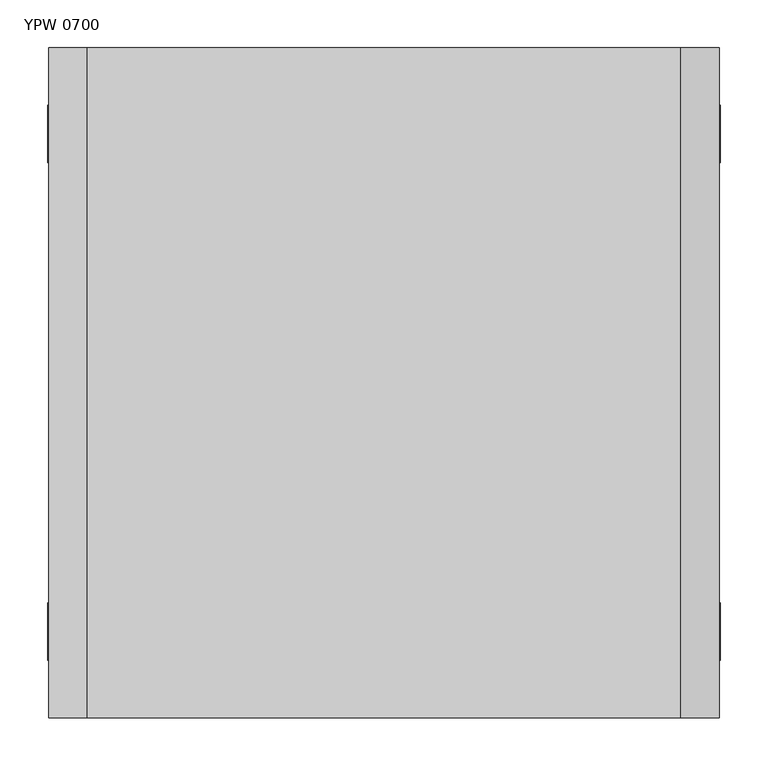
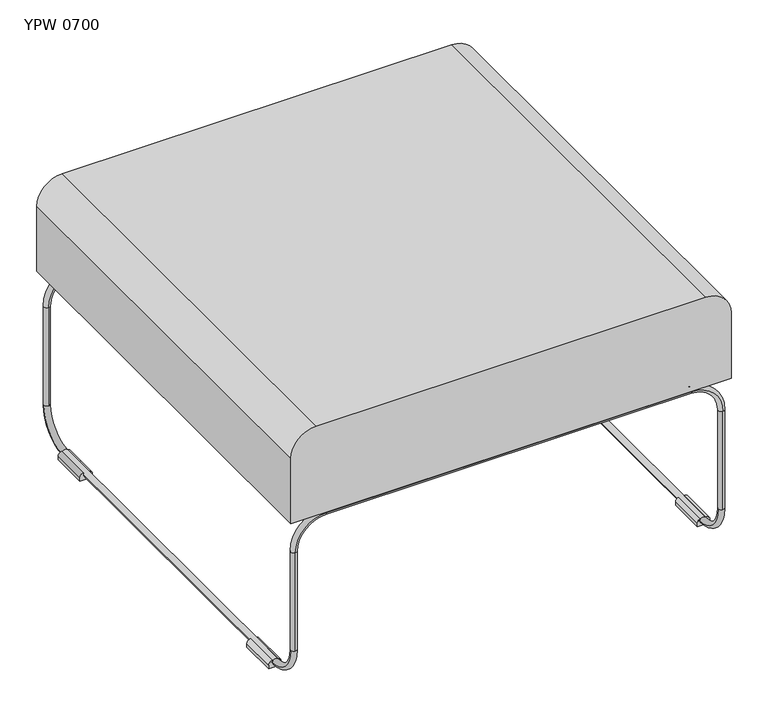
"""IFC4 building model written with IfcOpenShell, lengths in millimetres: furniture geometry, Mobiliário_Mobiliário de Escritório_LinhaYoung_Puff YPW 0700_Marelli : YPW 0700."""

from ifc_helpers import new_model, si_unit, point, frame, frame_2d, origin, place, context, project, spatial, polyline, circle_curve, ellipse_curve, trimmed, segment, composite_curve, outline, extrude, source, transform, mapped, element, save
from ifc_brep_helpers import cylinder_surface, revolved_surface, advanced_brep


def ypw_0700_b0204cda(model_context):
    return source(origin(), model_context, "Body", "SolidModel", [
        advanced_brep(
        [(15.0, 640.0, 9.0), (15.0, 690.0, 59.0), (10.0, 685.0, 59.0), (5.0, 690.0, 59.0), (5.0, 640.0, 9.0), (10.0, 695.0, 59.0), (5.0, 60.0, 9.0), (15.0, 60.0, 9.0), (695.0, 60.0, 9.0), (695.0, 640.0, 9.0), (685.0, 640.0, 9.0), (685.0, 60.0, 9.0), (695.0, 690.0, 59.0), (690.0, 685.0, 59.0), (685.0, 690.0, 59.0), (690.0, 695.0, 59.0), (5.0, 10.0, 59.0), (10.0, 15.0, 59.0), (15.0, 10.0, 59.0), (10.0, 5.0, 59.0), (685.0, 10.0, 59.0), (690.0, 15.0, 59.0), (695.0, 10.0, 59.0), (690.0, 5.0, 59.0), (640.0, 5.0, 275.0), (60.0, 5.0, 275.0), (60.0, 15.0, 275.0), (70.0, 15.0, 275.0), (75.0, 10.0, 270.0), (80.0, 15.0, 275.0), (620.0, 15.0, 275.0), (625.0, 10.0, 270.0), (630.0, 15.0, 275.0), (640.0, 15.0, 275.0), (625.0, 10.0, 280.0), (75.0, 10.0, 280.0), (640.0, 695.0, 275.0), (60.0, 695.0, 275.0), (60.0, 685.0, 275.0), (70.0, 685.0, 275.0), (75.0, 690.0, 280.0), (80.0, 685.0, 275.0), (620.0, 685.0, 275.0), (625.0, 690.0, 280.0), (630.0, 685.0, 275.0), (640.0, 685.0, 275.0), (625.0, 690.0, 270.0), (75.0, 690.0, 270.0), (10.0, 5.0, 225.0), (10.0, 15.0, 225.0), (690.0, 15.0, 225.0), (690.0, 5.0, 225.0), (10.0, 685.0, 225.0), (10.0, 695.0, 225.0), (690.0, 695.0, 225.0), (690.0, 685.0, 225.0)],
        [
            (0, 1, circle_curve(frame((15.0, 640.0, 59.0), z_axis=(1.0, 0.0, 0.0), x_axis=(0.0, 1.0, 0.0)), 50.0)),
            (1, 2, circle_curve(frame((10.0, 690.0, 59.0), z_axis=(0.0, 0.0, -1.0), x_axis=(1.0, 0.0, 0.0)), 5.0)),
            (2, 3, circle_curve(frame((10.0, 690.0, 59.0), z_axis=(0.0, 0.0, -1.0), x_axis=(1.0, 0.0, 0.0)), 5.0)),
            (3, 4, circle_curve(frame((5.0, 640.0, 59.0), z_axis=(-1.0, 0.0, 0.0), x_axis=(0.0, 1.0, 0.0)), 50.0)),
            (4, 0, circle_curve(frame((10.0, 640.0, 9.0), z_axis=(0.0, 1.0, 0.0), x_axis=(1.0, 0.0, 0.0)), 5.0)),
            (0, 4, circle_curve(frame((10.0, 640.0, 9.0), z_axis=(0.0, 1.0, 0.0), x_axis=(1.0, 0.0, 0.0)), 5.0)),
            (3, 5, circle_curve(frame((10.0, 690.0, 59.0), z_axis=(0.0, 0.0, -1.0), x_axis=(1.0, 0.0, 0.0)), 5.0)),
            (5, 1, circle_curve(frame((10.0, 690.0, 59.0), z_axis=(0.0, 0.0, -1.0), x_axis=(1.0, 0.0, 0.0)), 5.0)),
            (6, 4),
            (0, 7),
            (7, 6, circle_curve(frame((10.0, 60.0, 9.0), z_axis=(0.0, 1.0, 0.0), x_axis=(1.0, 0.0, 0.0)), 5.0)),
            (6, 7, circle_curve(frame((10.0, 60.0, 9.0), z_axis=(0.0, 1.0, 0.0), x_axis=(1.0, 0.0, 0.0)), 5.0)),
            (8, 9),
            (9, 10, circle_curve(frame((690.0, 640.0, 9.0), z_axis=(0.0, -1.0, 0.0), x_axis=(-1.0, 0.0, 0.0)), 5.0)),
            (10, 11),
            (11, 8, circle_curve(frame((690.0, 60.0, 9.0), z_axis=(0.0, 1.0, 0.0), x_axis=(-1.0, 0.0, 0.0)), 5.0)),
            (8, 11, circle_curve(frame((690.0, 60.0, 9.0), z_axis=(0.0, 1.0, 0.0), x_axis=(-1.0, 0.0, 0.0)), 5.0)),
            (10, 9, circle_curve(frame((690.0, 640.0, 9.0), z_axis=(0.0, -1.0, 0.0), x_axis=(-1.0, 0.0, 0.0)), 5.0)),
            (9, 12, circle_curve(frame((695.0, 640.0, 59.0), z_axis=(1.0, 0.0, 0.0), x_axis=(0.0, 1.0, 0.0)), 50.0)),
            (12, 13, circle_curve(frame((690.0, 690.0, 59.0), z_axis=(0.0, 0.0, -1.0), x_axis=(-1.0, 0.0, 0.0)), 5.0)),
            (13, 14, circle_curve(frame((690.0, 690.0, 59.0), z_axis=(0.0, 0.0, -1.0), x_axis=(-1.0, 0.0, 0.0)), 5.0)),
            (14, 10, circle_curve(frame((685.0, 640.0, 59.0), z_axis=(-1.0, 0.0, 0.0), x_axis=(0.0, 1.0, 0.0)), 50.0)),
            (14, 15, circle_curve(frame((690.0, 690.0, 59.0), z_axis=(0.0, 0.0, -1.0), x_axis=(-1.0, 0.0, 0.0)), 5.0)),
            (15, 12, circle_curve(frame((690.0, 690.0, 59.0), z_axis=(0.0, 0.0, -1.0), x_axis=(-1.0, 0.0, 0.0)), 5.0)),
            (6, 16, circle_curve(frame((5.0, 60.0, 59.0), z_axis=(-1.0, 0.0, 0.0), x_axis=(0.0, -1.0, 0.0)), 50.0)),
            (16, 17, circle_curve(frame((10.0, 10.0, 59.0), z_axis=(0.0, 0.0, -1.0), x_axis=(1.0, 0.0, 0.0)), 5.0)),
            (17, 18, circle_curve(frame((10.0, 10.0, 59.0), z_axis=(0.0, 0.0, -1.0), x_axis=(1.0, 0.0, 0.0)), 5.0)),
            (18, 7, circle_curve(frame((15.0, 60.0, 59.0), z_axis=(1.0, 0.0, 0.0), x_axis=(0.0, -1.0, 0.0)), 50.0)),
            (18, 19, circle_curve(frame((10.0, 10.0, 59.0), z_axis=(0.0, 0.0, -1.0), x_axis=(1.0, 0.0, 0.0)), 5.0)),
            (19, 16, circle_curve(frame((10.0, 10.0, 59.0), z_axis=(0.0, 0.0, -1.0), x_axis=(1.0, 0.0, 0.0)), 5.0)),
            (11, 20, circle_curve(frame((685.0, 60.0, 59.0), z_axis=(-1.0, 0.0, 0.0), x_axis=(0.0, -1.0, 0.0)), 50.0)),
            (20, 21, circle_curve(frame((690.0, 10.0, 59.0), z_axis=(0.0, 0.0, -1.0), x_axis=(-1.0, 0.0, 0.0)), 5.0)),
            (21, 22, circle_curve(frame((690.0, 10.0, 59.0), z_axis=(0.0, 0.0, -1.0), x_axis=(-1.0, 0.0, 0.0)), 5.0)),
            (22, 8, circle_curve(frame((695.0, 60.0, 59.0), z_axis=(1.0, 0.0, 0.0), x_axis=(0.0, -1.0, 0.0)), 50.0)),
            (22, 23, circle_curve(frame((690.0, 10.0, 59.0), z_axis=(0.0, 0.0, -1.0), x_axis=(-1.0, 0.0, 0.0)), 5.0)),
            (23, 20, circle_curve(frame((690.0, 10.0, 59.0), z_axis=(0.0, 0.0, -1.0), x_axis=(-1.0, 0.0, 0.0)), 5.0)),
            (24, 25),
            (25, 26, circle_curve(frame((60.0, 10.0, 275.0), z_axis=(1.0, 0.0, 0.0), x_axis=(0.0, 1.0, 0.0)), 5.0)),
            (26, 27),
            (27, 28, ellipse_curve(frame((75.0, 10.0, 275.0), z_axis=(-0.7071067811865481, -0.7071067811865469, 0.0), x_axis=(0.7071067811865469, -0.7071067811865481, 0.0)), 7.0710678, 5.0)),
            (28, 29, ellipse_curve(frame((75.0, 10.0, 275.0), z_axis=(0.7071067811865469, -0.7071067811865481, 0.0), x_axis=(0.7071067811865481, 0.7071067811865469, 0.0)), 7.0710678, 5.0)),
            (29, 30),
            (30, 31, ellipse_curve(frame((625.0, 10.0, 275.0), z_axis=(-0.7071067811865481, -0.7071067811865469, 0.0), x_axis=(0.7071067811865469, -0.7071067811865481, 0.0)), 7.0710678, 5.0)),
            (31, 32, ellipse_curve(frame((625.0, 10.0, 275.0), z_axis=(0.7071067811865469, -0.7071067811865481, 0.0), x_axis=(0.7071067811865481, 0.7071067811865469, 0.0)), 7.0710678, 5.0)),
            (32, 33),
            (33, 24, circle_curve(frame((640.0, 10.0, 275.0), z_axis=(-1.0, 0.0, 0.0), x_axis=(0.0, 1.0, 0.0)), 5.0)),
            (24, 33, circle_curve(frame((640.0, 10.0, 275.0), z_axis=(-1.0, 0.0, 0.0), x_axis=(0.0, 1.0, 0.0)), 5.0)),
            (32, 34, ellipse_curve(frame((625.0, 10.0, 275.0), z_axis=(0.7071067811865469, -0.7071067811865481, 0.0), x_axis=(0.7071067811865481, 0.7071067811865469, 0.0)), 7.0710678, 5.0)),
            (34, 30, ellipse_curve(frame((625.0, 10.0, 275.0), z_axis=(-0.7071067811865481, -0.7071067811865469, 0.0), x_axis=(0.7071067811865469, -0.7071067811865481, 0.0)), 7.0710678, 5.0)),
            (29, 35, ellipse_curve(frame((75.0, 10.0, 275.0), z_axis=(0.7071067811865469, -0.7071067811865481, 0.0), x_axis=(0.7071067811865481, 0.7071067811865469, 0.0)), 7.0710678, 5.0)),
            (35, 27, ellipse_curve(frame((75.0, 10.0, 275.0), z_axis=(-0.7071067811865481, -0.7071067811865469, 0.0), x_axis=(0.7071067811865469, -0.7071067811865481, 0.0)), 7.0710678, 5.0)),
            (26, 25, circle_curve(frame((60.0, 10.0, 275.0), z_axis=(1.0, 0.0, 0.0), x_axis=(0.0, 1.0, 0.0)), 5.0)),
            (36, 37),
            (37, 38, circle_curve(frame((60.0, 690.0, 275.0), z_axis=(1.0, 0.0, 0.0), x_axis=(0.0, -1.0, 0.0)), 5.0)),
            (38, 39),
            (39, 40, ellipse_curve(frame((75.0, 690.0, 275.0), z_axis=(-0.7071067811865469, 0.7071067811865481, 0.0), x_axis=(0.7071067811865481, 0.7071067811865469, 0.0)), 7.0710678, 5.0)),
            (40, 41, ellipse_curve(frame((75.0, 690.0, 275.0), z_axis=(0.7071067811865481, 0.7071067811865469, 0.0), x_axis=(0.7071067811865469, -0.7071067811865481, 0.0)), 7.0710678, 5.0)),
            (41, 42),
            (42, 43, ellipse_curve(frame((625.0, 690.0, 275.0), z_axis=(-0.7071067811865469, 0.7071067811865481, 0.0), x_axis=(0.7071067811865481, 0.7071067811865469, 0.0)), 7.0710678, 5.0)),
            (43, 44, ellipse_curve(frame((625.0, 690.0, 275.0), z_axis=(0.7071067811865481, 0.7071067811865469, 0.0), x_axis=(0.7071067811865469, -0.7071067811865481, 0.0)), 7.0710678, 5.0)),
            (44, 45),
            (45, 36, circle_curve(frame((640.0, 690.0, 275.0), z_axis=(-1.0, 0.0, 0.0), x_axis=(0.0, -1.0, 0.0)), 5.0)),
            (36, 45, circle_curve(frame((640.0, 690.0, 275.0), z_axis=(-1.0, 0.0, 0.0), x_axis=(0.0, -1.0, 0.0)), 5.0)),
            (44, 46, ellipse_curve(frame((625.0, 690.0, 275.0), z_axis=(0.7071067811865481, 0.7071067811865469, 0.0), x_axis=(0.7071067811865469, -0.7071067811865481, 0.0)), 7.0710678, 5.0)),
            (46, 42, ellipse_curve(frame((625.0, 690.0, 275.0), z_axis=(-0.7071067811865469, 0.7071067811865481, 0.0), x_axis=(0.7071067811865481, 0.7071067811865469, 0.0)), 7.0710678, 5.0)),
            (41, 47, ellipse_curve(frame((75.0, 690.0, 275.0), z_axis=(0.7071067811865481, 0.7071067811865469, 0.0), x_axis=(0.7071067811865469, -0.7071067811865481, 0.0)), 7.0710678, 5.0)),
            (47, 39, ellipse_curve(frame((75.0, 690.0, 275.0), z_axis=(-0.7071067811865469, 0.7071067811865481, 0.0), x_axis=(0.7071067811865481, 0.7071067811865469, 0.0)), 7.0710678, 5.0)),
            (38, 37, circle_curve(frame((60.0, 690.0, 275.0), z_axis=(1.0, 0.0, 0.0), x_axis=(0.0, -1.0, 0.0)), 5.0)),
            (25, 48, circle_curve(frame((60.0, 5.0, 225.0), z_axis=(0.0, -1.0, 0.0), x_axis=(-1.0, 0.0, 0.0)), 50.0)),
            (48, 49, circle_curve(frame((10.0, 10.0, 225.0), z_axis=(0.0, 0.0, 1.0), x_axis=(0.0, -1.0, 0.0)), 5.0)),
            (49, 26, circle_curve(frame((60.0, 15.0, 225.0), z_axis=(0.0, 1.0, 0.0), x_axis=(-1.0, 0.0, 0.0)), 50.0)),
            (49, 48, circle_curve(frame((10.0, 10.0, 225.0), z_axis=(0.0, 0.0, 1.0), x_axis=(0.0, -1.0, 0.0)), 5.0)),
            (33, 50, circle_curve(frame((640.0, 15.0, 225.0), z_axis=(0.0, 1.0, 0.0), x_axis=(1.0, 0.0, 0.0)), 50.0)),
            (50, 51, circle_curve(frame((690.0, 10.0, 225.0), z_axis=(0.0, 0.0, 1.0), x_axis=(0.0, -1.0, 0.0)), 5.0)),
            (51, 24, circle_curve(frame((640.0, 5.0, 225.0), z_axis=(0.0, -1.0, 0.0), x_axis=(1.0, 0.0, 0.0)), 50.0)),
            (51, 50, circle_curve(frame((690.0, 10.0, 225.0), z_axis=(0.0, 0.0, 1.0), x_axis=(0.0, -1.0, 0.0)), 5.0)),
            (38, 52, circle_curve(frame((60.0, 685.0, 225.0), z_axis=(0.0, -1.0, 0.0), x_axis=(-1.0, 0.0, 0.0)), 50.0)),
            (52, 53, circle_curve(frame((10.0, 690.0, 225.0), z_axis=(0.0, 0.0, 1.0), x_axis=(0.0, 1.0, 0.0)), 5.0)),
            (53, 37, circle_curve(frame((60.0, 695.0, 225.0), z_axis=(0.0, 1.0, 0.0), x_axis=(-1.0, 0.0, 0.0)), 50.0)),
            (53, 52, circle_curve(frame((10.0, 690.0, 225.0), z_axis=(0.0, 0.0, 1.0), x_axis=(0.0, 1.0, 0.0)), 5.0)),
            (36, 54, circle_curve(frame((640.0, 695.0, 225.0), z_axis=(0.0, 1.0, 0.0), x_axis=(1.0, 0.0, 0.0)), 50.0)),
            (54, 55, circle_curve(frame((690.0, 690.0, 225.0), z_axis=(0.0, 0.0, 1.0), x_axis=(0.0, 1.0, 0.0)), 5.0)),
            (55, 45, circle_curve(frame((640.0, 685.0, 225.0), z_axis=(0.0, -1.0, 0.0), x_axis=(1.0, 0.0, 0.0)), 50.0)),
            (55, 54, circle_curve(frame((690.0, 690.0, 225.0), z_axis=(0.0, 0.0, 1.0), x_axis=(0.0, 1.0, 0.0)), 5.0)),
            (41, 29),
            (27, 39),
            (32, 44),
            (42, 30),
            (53, 5),
            (2, 52),
            (54, 15),
            (13, 55),
            (48, 19),
            (17, 49),
            (51, 23),
            (21, 50),
        ],
        [
            revolved_surface(trimmed(ellipse_curve(frame((10.0, 690.0, 59.0), z_axis=(0.0, 0.0, 1.0), x_axis=(1.0, 0.0, 0.0)), 5.0, 5.0), [point((5.0, 690.0, 59.0))], [point((15.0, 690.0, 59.0))], True, "CARTESIAN"), (20.0, 640.0, 59.0), (-1.0, 0.0, 0.0)),
            revolved_surface(trimmed(ellipse_curve(frame((10.0, 690.0, 59.0), z_axis=(0.0, 0.0, 1.0), x_axis=(1.0, 0.0, 0.0)), 5.0, 5.0), [point((15.0, 690.0, 59.0))], [point((5.0, 690.0, 59.0))], True, "CARTESIAN"), (20.0, 640.0, 59.0), (-1.0, 0.0, 0.0)),
            cylinder_surface(frame((10.0, 640.0, 9.0), z_axis=(0.0, -1.0, 0.0), x_axis=(1.0, 0.0, 0.0)), 5.0),
            cylinder_surface(frame((690.0, 0.0, 9.0), z_axis=(0.0, -1.0, 0.0), x_axis=(-1.0, 0.0, 0.0)), 5.0),
            revolved_surface(trimmed(ellipse_curve(frame((690.0, 690.0, 59.0), z_axis=(0.0, 0.0, 1.0), x_axis=(-1.0, 0.0, 0.0)), 5.0, 5.0), [point((685.0, 690.0, 59.0))], [point((695.0, 690.0, 59.0))], True, "CARTESIAN"), (680.0, 640.0, 59.0), (-1.0, 0.0, 0.0)),
            revolved_surface(trimmed(ellipse_curve(frame((690.0, 690.0, 59.0), z_axis=(0.0, 0.0, 1.0), x_axis=(-1.0, 0.0, 0.0)), 5.0, 5.0), [point((695.0, 690.0, 59.0))], [point((685.0, 690.0, 59.0))], True, "CARTESIAN"), (680.0, 640.0, 59.0), (-1.0, 0.0, 0.0)),
            revolved_surface(trimmed(ellipse_curve(frame((10.0, 10.0, 59.0), z_axis=(0.0, 0.0, 1.0), x_axis=(1.0, 0.0, 0.0)), 5.0, 5.0), [point((15.0, 10.0, 59.0))], [point((5.0, 10.0, 59.0))], True, "CARTESIAN"), (20.0, 60.0, 59.0), (1.0, 0.0, 0.0)),
            revolved_surface(trimmed(ellipse_curve(frame((10.0, 10.0, 59.0), z_axis=(0.0, 0.0, 1.0), x_axis=(1.0, 0.0, 0.0)), 5.0, 5.0), [point((5.0, 10.0, 59.0))], [point((15.0, 10.0, 59.0))], True, "CARTESIAN"), (20.0, 60.0, 59.0), (1.0, 0.0, 0.0)),
            revolved_surface(trimmed(ellipse_curve(frame((690.0, 10.0, 59.0), z_axis=(0.0, 0.0, 1.0), x_axis=(-1.0, 0.0, 0.0)), 5.0, 5.0), [point((695.0, 10.0, 59.0))], [point((685.0, 10.0, 59.0))], True, "CARTESIAN"), (680.0, 60.0, 59.0), (1.0, 0.0, 0.0)),
            revolved_surface(trimmed(ellipse_curve(frame((690.0, 10.0, 59.0), z_axis=(0.0, 0.0, 1.0), x_axis=(-1.0, 0.0, 0.0)), 5.0, 5.0), [point((685.0, 10.0, 59.0))], [point((695.0, 10.0, 59.0))], True, "CARTESIAN"), (680.0, 60.0, 59.0), (1.0, 0.0, 0.0)),
            cylinder_surface(frame((60.0, 10.0, 275.0), z_axis=(1.0, 0.0, 0.0), x_axis=(0.0, 1.0, 0.0)), 5.0),
            cylinder_surface(frame((740.0, 690.0, 275.0), z_axis=(1.0, 0.0, 0.0), x_axis=(0.0, -1.0, 0.0)), 5.0),
            revolved_surface(trimmed(ellipse_curve(frame((10.0, 10.0, 225.0), z_axis=(0.0, 0.0, -1.0), x_axis=(0.0, -1.0, 0.0)), 5.0, 5.0), [point((10.0, 15.0, 225.0))], [point((10.0, 5.0, 225.0))], True, "CARTESIAN"), (60.0, 0.0, 225.0), (0.0, 1.0, 0.0)),
            revolved_surface(trimmed(ellipse_curve(frame((10.0, 10.0, 225.0), z_axis=(0.0, 0.0, -1.0), x_axis=(0.0, -1.0, 0.0)), 5.0, 5.0), [point((10.0, 5.0, 225.0))], [point((10.0, 15.0, 225.0))], True, "CARTESIAN"), (60.0, 0.0, 225.0), (0.0, 1.0, 0.0)),
            revolved_surface(trimmed(ellipse_curve(frame((690.0, 10.0, 225.0), z_axis=(0.0, 0.0, -1.0), x_axis=(0.0, -1.0, 0.0)), 5.0, 5.0), [point((690.0, 5.0, 225.0))], [point((690.0, 15.0, 225.0))], True, "CARTESIAN"), (640.0, 0.0, 225.0), (0.0, -1.0, 0.0)),
            revolved_surface(trimmed(ellipse_curve(frame((690.0, 10.0, 225.0), z_axis=(0.0, 0.0, -1.0), x_axis=(0.0, -1.0, 0.0)), 5.0, 5.0), [point((690.0, 15.0, 225.0))], [point((690.0, 5.0, 225.0))], True, "CARTESIAN"), (640.0, 0.0, 225.0), (0.0, -1.0, 0.0)),
            revolved_surface(trimmed(ellipse_curve(frame((10.0, 690.0, 225.0), z_axis=(0.0, 0.0, -1.0), x_axis=(0.0, 1.0, 0.0)), 5.0, 5.0), [point((10.0, 695.0, 225.0))], [point((10.0, 685.0, 225.0))], True, "CARTESIAN"), (60.0, 700.0, 225.0), (0.0, 1.0, 0.0)),
            revolved_surface(trimmed(ellipse_curve(frame((10.0, 690.0, 225.0), z_axis=(0.0, 0.0, -1.0), x_axis=(0.0, 1.0, 0.0)), 5.0, 5.0), [point((10.0, 685.0, 225.0))], [point((10.0, 695.0, 225.0))], True, "CARTESIAN"), (60.0, 700.0, 225.0), (0.0, 1.0, 0.0)),
            revolved_surface(trimmed(ellipse_curve(frame((690.0, 690.0, 225.0), z_axis=(0.0, 0.0, -1.0), x_axis=(0.0, 1.0, 0.0)), 5.0, 5.0), [point((690.0, 685.0, 225.0))], [point((690.0, 695.0, 225.0))], True, "CARTESIAN"), (640.0, 700.0, 225.0), (0.0, -1.0, 0.0)),
            revolved_surface(trimmed(ellipse_curve(frame((690.0, 690.0, 225.0), z_axis=(0.0, 0.0, -1.0), x_axis=(0.0, 1.0, 0.0)), 5.0, 5.0), [point((690.0, 695.0, 225.0))], [point((690.0, 685.0, 225.0))], True, "CARTESIAN"), (640.0, 700.0, 225.0), (0.0, -1.0, 0.0)),
            cylinder_surface(frame((75.0, 690.0, 275.0), z_axis=(0.0, -1.0, 0.0), x_axis=(1.0, 0.0, 0.0)), 5.0),
            cylinder_surface(frame((625.0, 0.0, 275.0), z_axis=(0.0, -1.0, 0.0), x_axis=(-1.0, 0.0, 0.0)), 5.0),
            cylinder_surface(frame((10.0, 690.0, 59.0), z_axis=(0.0, 0.0, 1.0), x_axis=(0.0, 1.0, 0.0)), 5.0),
            cylinder_surface(frame((690.0, 690.0, 0.0), z_axis=(0.0, 0.0, 1.0), x_axis=(0.0, 1.0, 0.0)), 5.0),
            cylinder_surface(frame((10.0, 10.0, 0.0), z_axis=(0.0, 0.0, 1.0), x_axis=(0.0, -1.0, 0.0)), 5.0),
            cylinder_surface(frame((690.0, 10.0, 0.0), z_axis=(0.0, 0.0, 1.0), x_axis=(0.0, -1.0, 0.0)), 5.0),
        ],
        [
            (0, [[1, 2, 3, 4, 5]]),
            (1, [[-1, 6, -4, 7, 8]]),
            (2, [[9, -6, 10, 11]]),
            (2, [[-9, 12, -10, -5]]),
            (3, [[13, 14, 15, 16]]),
            (3, [[-13, 17, -15, 18]]),
            (4, [[19, 20, 21, 22, -14]]),
            (5, [[-19, -18, -22, 23, 24]]),
            (6, [[25, 26, 27, 28, -12]]),
            (7, [[-25, -11, -28, 29, 30]]),
            (8, [[31, 32, 33, 34, -16]]),
            (9, [[-31, -17, -34, 35, 36]]),
            (10, [[37, 38, 39, 40, 41, 42, 43, 44, 45, 46]]),
            (10, [[-37, 47, -45, 48, 49, -42, 50, 51, -39, 52]]),
            (11, [[53, 54, 55, 56, 57, 58, 59, 60, 61, 62]]),
            (11, [[-53, 63, -61, 64, 65, -58, 66, 67, -55, 68]]),
            (12, [[69, 70, 71, -38]]),
            (13, [[-69, -52, -71, 72]]),
            (14, [[73, 74, 75, -46]]),
            (15, [[-73, -47, -75, 76]]),
            (16, [[77, 78, 79, -68]]),
            (17, [[-77, -54, -79, 80]]),
            (18, [[81, 82, 83, -63]]),
            (19, [[-81, -62, -83, 84]]),
            (20, [[85, -41, -40, 86, -67, -66]]),
            (20, [[-85, -57, -56, -86, -51, -50]]),
            (21, [[87, -60, -59, 88, -49, -48]]),
            (21, [[-87, -44, -43, -88, -65, -64]]),
            (22, [[89, -7, -3, 90, -80]]),
            (22, [[-89, -78, -90, -2, -8]]),
            (23, [[91, -23, -21, 92, -82]]),
            (23, [[-91, -84, -92, -20, -24]]),
            (24, [[93, -29, -27, 94, -70]]),
            (24, [[-93, -72, -94, -26, -30]]),
            (25, [[95, -35, -33, 96, -76]]),
            (25, [[-95, -74, -96, -32, -36]]),
        ],
    ),
        extrude(outline(composite_curve([segment(polyline([(0.0, 19.0127166), (6.0, 19.0127166)]), True, "CONTINUOUS"), segment(trimmed(circle_curve(frame_2d((6.0, 13.0127166)), 6.0), [point((6.0, 19.0127166))], [point((11.9041735, 14.0807687))], False, "CARTESIAN"), True, "CONTINUOUS"), segment(trimmed(circle_curve(frame_2d((8.9971213, 10.0127166)), 5.0), [point((11.9041735, 14.0807687))], [point((11.9248285, 5.9595042))], True, "CARTESIAN"), True, "CONTINUOUS"), segment(trimmed(circle_curve(frame_2d((6.0, 5.0127166)), 6.0), [point((11.9248285, 5.9595042))], [point((6.0, -0.9872834))], False, "CARTESIAN"), True, "CONTINUOUS"), segment(polyline([(6.0, -0.9872834), (0.0, -0.9872834), (0.0, 19.0127166)]), True, "CONTINUOUS")], self_intersect=False)), frame((0.0, 60.0, 0.0), z_axis=(0.0, 1.0, 0.0), x_axis=(0.0, 0.0, 1.0)), (0.0, 0.0, 1.0), 60.0),
        extrude(outline(composite_curve([segment(polyline([(0.0, 680.9872834), (0.0, 700.9872834), (6.0, 700.9872834)]), True, "CONTINUOUS"), segment(trimmed(circle_curve(frame_2d((6.0, 694.9872834)), 6.0), [point((6.0, 700.9872834))], [point((11.9248285, 694.0404958))], False, "CARTESIAN"), True, "CONTINUOUS"), segment(trimmed(circle_curve(frame_2d((8.9971213, 689.9872834)), 5.0), [point((11.9248285, 694.0404958))], [point((11.9041735, 685.9192313))], True, "CARTESIAN"), True, "CONTINUOUS"), segment(trimmed(circle_curve(frame_2d((6.0, 686.9872834)), 6.0), [point((11.9041735, 685.9192313))], [point((6.0, 680.9872834))], False, "CARTESIAN"), True, "CONTINUOUS"), segment(polyline([(6.0, 680.9872834), (0.0, 680.9872834)]), True, "CONTINUOUS")], self_intersect=False)), frame((0.0, 60.0, 0.0), z_axis=(0.0, 1.0, 0.0), x_axis=(0.0, 0.0, 1.0)), (0.0, 0.0, 1.0), 60.0),
        extrude(outline(composite_curve([segment(polyline([(0.0, 19.0127166), (6.0, 19.0127166)]), True, "CONTINUOUS"), segment(trimmed(circle_curve(frame_2d((6.0, 13.0127166)), 6.0), [point((6.0, 19.0127166))], [point((11.9041735, 14.0807687))], False, "CARTESIAN"), True, "CONTINUOUS"), segment(trimmed(circle_curve(frame_2d((8.9971213, 10.0127166)), 5.0), [point((11.9041735, 14.0807687))], [point((11.9248285, 5.9595042))], True, "CARTESIAN"), True, "CONTINUOUS"), segment(trimmed(circle_curve(frame_2d((6.0, 5.0127166)), 6.0), [point((11.9248285, 5.9595042))], [point((6.0, -0.9872834))], False, "CARTESIAN"), True, "CONTINUOUS"), segment(polyline([(6.0, -0.9872834), (0.0, -0.9872834), (0.0, 19.0127166)]), True, "CONTINUOUS")], self_intersect=False)), frame((0.0, 580.0, 0.0), z_axis=(0.0, 1.0, 0.0), x_axis=(0.0, 0.0, 1.0)), (0.0, 0.0, 1.0), 60.0),
        extrude(outline(composite_curve([segment(polyline([(0.0, 680.9872834), (0.0, 700.9872834), (6.0, 700.9872834)]), True, "CONTINUOUS"), segment(trimmed(circle_curve(frame_2d((6.0, 694.9872834)), 6.0), [point((6.0, 700.9872834))], [point((11.9248285, 694.0404958))], False, "CARTESIAN"), True, "CONTINUOUS"), segment(trimmed(circle_curve(frame_2d((8.9971213, 689.9872834)), 5.0), [point((11.9248285, 694.0404958))], [point((11.9041735, 685.9192313))], True, "CARTESIAN"), True, "CONTINUOUS"), segment(trimmed(circle_curve(frame_2d((6.0, 686.9872834)), 6.0), [point((11.9041735, 685.9192313))], [point((6.0, 680.9872834))], False, "CARTESIAN"), True, "CONTINUOUS"), segment(polyline([(6.0, 680.9872834), (0.0, 680.9872834)]), True, "CONTINUOUS")], self_intersect=False)), frame((0.0, 580.0, 0.0), z_axis=(0.0, 1.0, 0.0), x_axis=(0.0, 0.0, 1.0)), (0.0, 0.0, 1.0), 60.0),
        extrude(outline(composite_curve([segment(polyline([(280.0, 700.0), (390.0, 700.0)]), True, "CONTINUOUS"), segment(trimmed(circle_curve(frame_2d((390.0, 660.0)), 40.0), [point((390.0, 700.0))], [point((430.0, 660.0))], False, "CARTESIAN"), True, "CONTINUOUS"), segment(polyline([(430.0, 660.0), (430.0, 40.0)]), True, "CONTINUOUS"), segment(trimmed(circle_curve(frame_2d((390.0, 40.0)), 40.0), [point((430.0, 40.0))], [point((390.0, 0.0))], False, "CARTESIAN"), True, "CONTINUOUS"), segment(polyline([(390.0, 0.0), (280.0, 0.0), (280.0, 700.0)]), True, "CONTINUOUS")], self_intersect=False)), frame((0.0, 0.0, 0.0), z_axis=(0.0, 1.0, 0.0), x_axis=(0.0, 0.0, 1.0)), (0.0, 0.0, 1.0), 700.0),
    ])


if __name__ == "__main__":
    model = new_model("IFC4")
    model_context = context("Model", 3, world=origin())
    ifc_project = project(units=[si_unit("LENGTHUNIT", "METRE", prefix="MILLI")], contexts=[model_context])
    site = spatial("IfcSite", under=ifc_project)
    building = spatial("IfcBuilding", under=site)
    placement = place(None, origin())
    ypw_0700_shape = ypw_0700_b0204cda(model_context)
    element("IfcFurniture", 1, ObjectType="Mobiliário_Mobiliário de Escritório_LinhaYoung_Puff YPW 0700_Marelli : YPW 0700", at=placement, inside=building, context=model_context, shape_type="MappedRepresentation", body=[
        mapped(ypw_0700_shape, transform((0.0, 0.0, 0.0), x_axis=(1.0, 0.0, 0.0), y_axis=(0.0, 1.0, 0.0), z_axis=(0.0, 0.0, 1.0))),
    ])
    save(model, "model.ifc")
